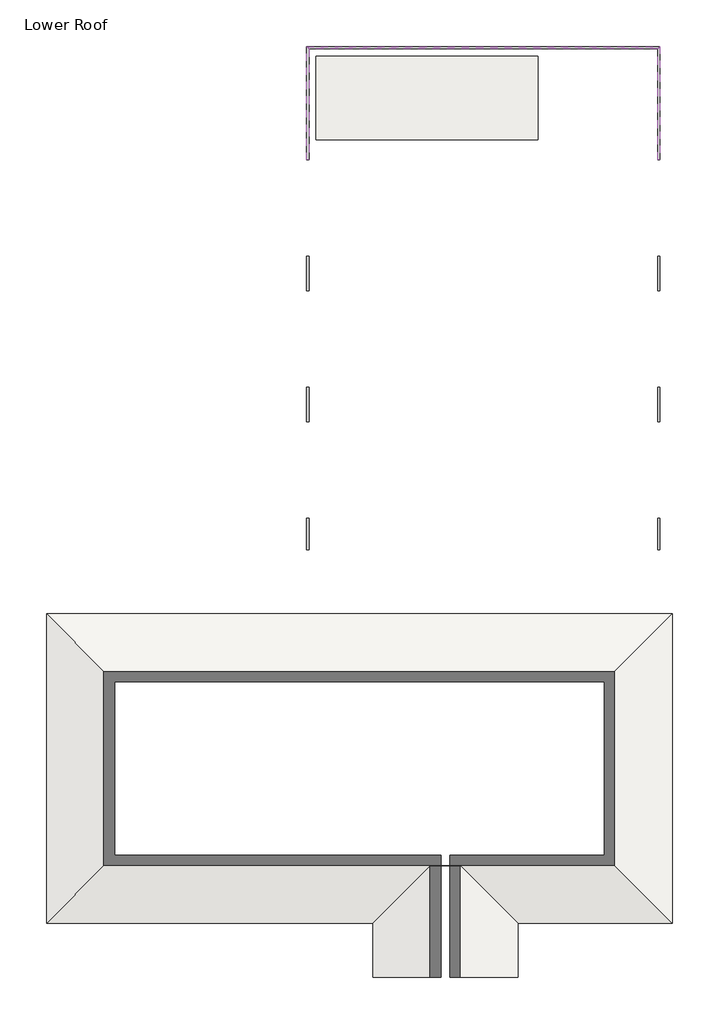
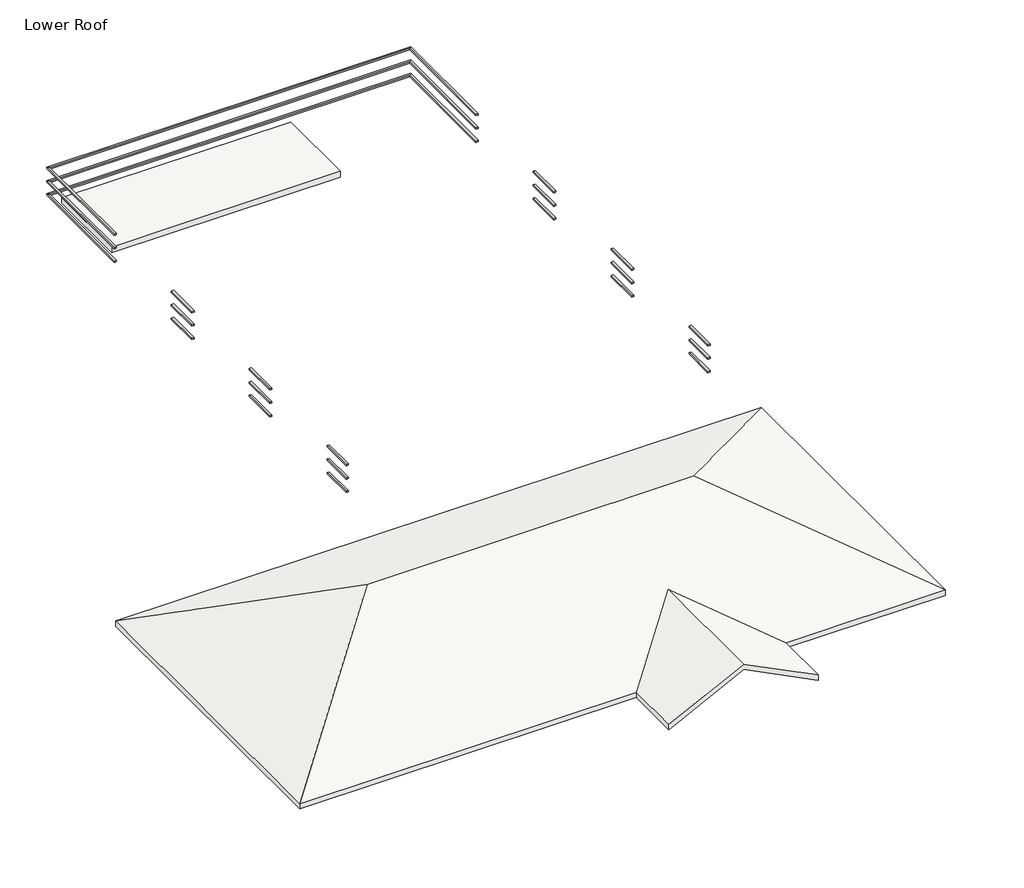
# One storey: 9 proxies, 1 roof, 1 slab.
"""IFC4 building model written with IfcOpenShell, lengths in millimetres."""

import ifcopenshell
import ifcopenshell.guid

model = None  # the IFC model being written
_history = None  # IfcOwnerHistory: only IFC2X3 demands one
_inside = {}  # id of a spatial element -> (the spatial element, [elements in it])
_under = {}  # id of a project, library or spatial element -> (it, [spatial elements below it])
_declared = {}  # id of a project -> (the project, [libraries it declares])
_typed = {}  # id of a type object -> (the type object, [elements of that type])
_made_of = {}  # id of a material, layer set ... -> (it, [elements and type objects made of it])


def new_model(schema):
    """Start an empty IFC model of exactly this schema.

    Asked for "IFC4X3", IfcOpenShell would pick the latest addendum, in which some entities
    have other attributes; the version numbers below select the first issue.
    IFC2X3 requires an IfcOwnerHistory on every rooted entity: one is made here for all.
    """
    global model, _history
    if schema == "IFC4X3":
        model = ifcopenshell.file(schema_version=(4, 3, 0, 0))
    else:
        model = ifcopenshell.file(schema=schema)
    _inside.clear()
    _under.clear()
    _declared.clear()
    _typed.clear()
    _made_of.clear()
    _history = None
    if model.schema == "IFC2X3":
        org = make("IfcOrganization", Name="unknown")
        user = make(
            "IfcPersonAndOrganization",
            ThePerson=make("IfcPerson", FamilyName="unknown"),
            TheOrganization=org,
        )
        app = make(
            "IfcApplication",
            ApplicationDeveloper=org,
            Version="unknown",
            ApplicationFullName="unknown",
            ApplicationIdentifier="unknown",
        )
        _history = make(
            "IfcOwnerHistory",
            OwningUser=user,
            OwningApplication=app,
            ChangeAction="ADDED",
            CreationDate=0,
        )
    return model


def make(cls, **values):
    """One entity of the class cls with the attributes given. An attribute that is None is left unset."""
    return model.create_entity(
        cls, **{name: value for name, value in values.items() if value is not None}
    )


def rooted(cls, **values):
    """An entity with a GlobalId (a new one), such as an element, a storey or a relation."""
    return make(cls, GlobalId=ifcopenshell.guid.new(), OwnerHistory=_history, **values)


def si_unit(unit_type, name, prefix=None):
    """IfcSIUnit, for example si_unit("LENGTHUNIT", "METRE", prefix="MILLI")."""
    return make("IfcSIUnit", UnitType=unit_type, Prefix=prefix, Name=name)


def assignment(units):
    """IfcUnitAssignment: the units of a project."""
    return None if units is None else make("IfcUnitAssignment", Units=units)


def point(xyz):
    """IfcCartesianPoint."""
    return None if xyz is None else make("IfcCartesianPoint", Coordinates=xyz)


def direction(xyz):
    """IfcDirection."""
    return None if xyz is None else make("IfcDirection", DirectionRatios=xyz)


def frame(location, z_axis=None, x_axis=None):
    """IfcAxis2Placement3D, a coordinate frame: its origin and axes. An axis left out is left unset."""
    return make(
        "IfcAxis2Placement3D",
        Location=point(location),
        Axis=direction(z_axis),
        RefDirection=direction(x_axis),
    )


def origin():
    """The frame at (0, 0, 0) with its axes left unset."""
    return frame((0.0, 0.0, 0.0))


def place(relative_to, where):
    """IfcLocalPlacement: puts the frame where relative to a parent placement (None: the world)."""
    return make(
        "IfcLocalPlacement", PlacementRelTo=relative_to, RelativePlacement=where
    )


def context(
    kind, dimensions, precision=None, world=None, true_north=None, identifier=None
):
    """IfcGeometricRepresentationContext, for example the 3D "Model" context."""
    return make(
        "IfcGeometricRepresentationContext",
        ContextIdentifier=identifier,
        ContextType=kind,
        CoordinateSpaceDimension=dimensions,
        Precision=precision,
        WorldCoordinateSystem=world,
        TrueNorth=true_north,
    )


def project(units=None, contexts=None):
    """IfcProject with its units and contexts."""
    return rooted(
        "IfcProject",
        Name="project",
        RepresentationContexts=contexts,
        UnitsInContext=assignment(units),
    )


def spatial(cls, under=None, at=None, **own):
    """A site, building, storey or space (cls), placed at a placement, below another one or the project."""
    s = rooted(cls, ObjectPlacement=at, **own)
    if under is not None:
        _under.setdefault(under.id(), (under, []))[1].append(s)
    return s


def polyline(points):
    """IfcPolyline through the points."""
    return make("IfcPolyline", Points=[point(p) for p in points])


def outline(outer, holes=None, kind="AREA"):
    """IfcArbitraryClosedProfileDef: a profile drawn as a closed curve; with holes, ...WithVoids."""
    if holes is None:
        return make("IfcArbitraryClosedProfileDef", ProfileType=kind, OuterCurve=outer)
    return make(
        "IfcArbitraryProfileDefWithVoids",
        ProfileType=kind,
        OuterCurve=outer,
        InnerCurves=holes,
    )


def extrude(swept, where, along, depth):
    """IfcExtrudedAreaSolid: the profile swept, set in the frame where, extruded along a direction by depth."""
    return make(
        "IfcExtrudedAreaSolid",
        SweptArea=swept,
        Position=where,
        ExtrudedDirection=direction(along),
        Depth=depth,
    )


def faces_of(points, faces, orient=None, outer=None):
    """IfcFace entities. A face is a list of loops; a loop is a list of indices into points, from 0.

    orient and outer hold one flag for each loop. By default every Orientation is true, the
    first loop of a face is its IfcFaceOuterBound and the others are IfcFaceBound.
    """
    made = []
    for i, loops in enumerate(faces):
        bounds = []
        for j, loop in enumerate(loops):
            is_outer = j == 0 if outer is None else outer[i][j]
            bounds.append(
                make(
                    "IfcFaceOuterBound" if is_outer else "IfcFaceBound",
                    Bound=make("IfcPolyLoop", Polygon=[points[k] for k in loop]),
                    Orientation=True if orient is None else orient[i][j],
                )
            )
        made.append(make("IfcFace", Bounds=bounds))
    return made


def faceted_brep(points, faces, orient=None, outer=None, voids=None):
    """IfcFacetedBrep: a solid bounded by flat faces; with voids (closed shells), ...WithVoids."""
    shared = [point(p) for p in points]
    hull = make("IfcClosedShell", CfsFaces=faces_of(shared, faces, orient, outer))
    if voids is None:
        return make("IfcFacetedBrep", Outer=hull)
    return make(
        "IfcFacetedBrepWithVoids",
        Outer=hull,
        Voids=[
            make(cls, CfsFaces=faces_of(shared, fs, o, b)) for cls, fs, o, b in voids
        ],
    )


def shape(context_of_items, identifier, shape_type, items):
    """IfcShapeRepresentation: the items that make up one representation, for example the "Body"."""
    return make(
        "IfcShapeRepresentation",
        ContextOfItems=context_of_items,
        RepresentationIdentifier=identifier,
        RepresentationType=shape_type,
        Items=items,
    )


def made_of(thing, what):
    """Note that an element or type object is made of a material, layer set ...; save() writes the relation."""
    if what is not None:
        _made_of.setdefault(what.id(), (what, []))[1].append(thing)
    return thing


def element(
    cls,
    number,
    at=None,
    inside=None,
    cuts=None,
    type_object=None,
    material=None,
    context=None,
    identifier="Body",
    shape_type=None,
    held_by="IfcProductDefinitionShape",
    body=None,
    shapes=None,
    **own,
):
    """One element of the class cls, such as IfcWall. Its Tag is "e" and its number.

    at: its placement. inside: the storey or other place that contains it. cuts: it is an
    opening in that element (IfcRelVoidsElement). A single representation is given by context,
    identifier, shape_type and body (its items); several are given by shapes. held_by: the class
    of the entity that holds the representations. save() writes the other relations.
    """
    e = rooted(cls, Tag="e%d" % number, ObjectPlacement=at, **own)
    if body is not None:
        shapes = [shape(context, identifier, shape_type, body)]
    if shapes is not None:
        e.Representation = make(held_by, Representations=shapes)
    if inside is not None:
        _inside.setdefault(inside.id(), (inside, []))[1].append(e)
    if cuts is not None:
        rooted(
            "IfcRelVoidsElement", RelatingBuildingElement=cuts, RelatedOpeningElement=e
        )
    if type_object is not None:
        _typed.setdefault(type_object.id(), (type_object, []))[1].append(e)
    return made_of(e, material)


def aggregate(whole, parts):
    """IfcRelAggregates: a whole, such as a stair, and the parts it consists of."""
    return rooted("IfcRelAggregates", RelatingObject=whole, RelatedObjects=parts)


def save(model, path):
    """Write the relations noted so far, then the file.

    IfcRelAggregates (storeys below a building ...), IfcRelContainedInSpatialStructure (elements
    in a storey), IfcRelDefinesByType, IfcRelAssociatesMaterial and IfcRelDeclares: one each for
    every whole, place, type object, material and project.
    """
    for whole, parts in _under.values():
        aggregate(whole, parts)
    for where, things in _inside.values():
        rooted(
            "IfcRelContainedInSpatialStructure",
            RelatedElements=things,
            RelatingStructure=where,
        )
    for kind, things in _typed.values():
        rooted("IfcRelDefinesByType", RelatedObjects=things, RelatingType=kind)
    for what, things in _made_of.values():
        rooted("IfcRelAssociatesMaterial", RelatedObjects=things, RelatingMaterial=what)
    for by, libraries in _declared.values():
        rooted("IfcRelDeclares", RelatingContext=by, RelatedDefinitions=libraries)
    model.write(path)


model = new_model("IFC4")

# Units and contexts
model_context = context("Model", 3, world=origin())
ifc_project = project(units=[si_unit("LENGTHUNIT", "METRE", prefix="MILLI")], contexts=[model_context])

# Site, building, storey
site = spatial("IfcSite", under=ifc_project)
building = spatial("IfcBuilding", under=site)
storey = spatial("IfcBuildingStorey", under=building, Name="Lower Roof", Elevation=45720.0)

# Proxies
placement = place(None, origin())
element("IfcBuildingElementProxy", 1, Name="Reveals", at=placement, inside=storey, context=model_context, shape_type="SweptSolid", body=[
    extrude(outline(polyline([(-14824.1042336, 22029.6605156), (-14916.1792336, 22121.7355156), (707.9957664, 22121.7355156), (615.9207664, 22029.6605156), (-14824.1042336, 22029.6605156)])), frame((0.0, 0.0, 45720.0), z_axis=(0.0, 0.0, 1.0), x_axis=(1.0, 0.0, 0.0)), (0.0, 0.0, 1.0), 67.7333333),
])
element("IfcBuildingElementProxy", 2, Name="Reveals", at=placement, inside=storey, context=model_context, shape_type="SweptSolid", body=[
    extrude(outline(polyline([(-14824.1042336, 22029.6605156), (-14916.1792336, 22121.7355156), (707.9957664, 22121.7355156), (615.9207664, 22029.6605156), (-14824.1042336, 22029.6605156)])), frame((0.0, 0.0, 46329.6), z_axis=(0.0, 0.0, 1.0), x_axis=(1.0, 0.0, 0.0)), (0.0, 0.0, 1.0), 67.7333333),
])
element("IfcBuildingElementProxy", 3, Name="Reveals", at=placement, inside=storey, context=model_context, shape_type="SweptSolid", body=[
    extrude(outline(polyline([(-14824.1042336, 22029.6605156), (-14916.1792336, 22121.7355156), (707.9957664, 22121.7355156), (615.9207664, 22029.6605156), (-14824.1042336, 22029.6605156)])), frame((0.0, 0.0, 46939.2), z_axis=(0.0, 0.0, 1.0), x_axis=(1.0, 0.0, 0.0)), (0.0, 0.0, 1.0), 67.7333333),
])
element("IfcBuildingElementProxy", 4, Name="Reveals", at=placement, inside=storey, context=model_context, shape_type="SweptSolid", body=[
    extrude(outline(polyline([(-14824.1042336, -141.3644844), (-14916.1792336, -141.3644844), (-14916.1792336, 1254.0480156), (-14824.1042336, 1254.0480156), (-14824.1042336, -141.3644844)])), frame((0.0, 0.0, 45720.0), z_axis=(0.0, 0.0, 1.0), x_axis=(1.0, 0.0, 0.0)), (0.0, 0.0, 1.0), 67.7333333),
    extrude(outline(polyline([(-14824.1042336, 5521.2480156), (-14916.1792336, 5521.2480156), (-14916.1792336, 7045.2480156), (-14824.1042336, 7045.2480156), (-14824.1042336, 5521.2480156)])), frame((0.0, 0.0, 45720.0), z_axis=(0.0, 0.0, 1.0), x_axis=(1.0, 0.0, 0.0)), (0.0, 0.0, 1.0), 67.7333333),
    extrude(outline(polyline([(-14824.1042336, 11312.4480156), (-14916.1792336, 11312.4480156), (-14916.1792336, 12836.4480156), (-14824.1042336, 12836.4480156), (-14824.1042336, 11312.4480156)])), frame((0.0, 0.0, 45720.0), z_axis=(0.0, 0.0, 1.0), x_axis=(1.0, 0.0, 0.0)), (0.0, 0.0, 1.0), 67.7333333),
    extrude(outline(polyline([(-14824.1042336, 17103.6480156), (-14916.1792336, 17103.6480156), (-14916.1792336, 22121.7355156), (-14824.1042336, 22029.6605156), (-14824.1042336, 17103.6480156)])), frame((0.0, 0.0, 45720.0), z_axis=(0.0, 0.0, 1.0), x_axis=(1.0, 0.0, 0.0)), (0.0, 0.0, 1.0), 67.7333333),
])
element("IfcBuildingElementProxy", 5, Name="Reveals", at=placement, inside=storey, context=model_context, shape_type="SweptSolid", body=[
    extrude(outline(polyline([(-14824.1042336, -141.3644844), (-14916.1792336, -141.3644844), (-14916.1792336, 1254.0480156), (-14824.1042336, 1254.0480156), (-14824.1042336, -141.3644844)])), frame((0.0, 0.0, 46329.6), z_axis=(0.0, 0.0, 1.0), x_axis=(1.0, 0.0, 0.0)), (0.0, 0.0, 1.0), 67.7333333),
    extrude(outline(polyline([(-14824.1042336, 5521.2480156), (-14916.1792336, 5521.2480156), (-14916.1792336, 7045.2480156), (-14824.1042336, 7045.2480156), (-14824.1042336, 5521.2480156)])), frame((0.0, 0.0, 46329.6), z_axis=(0.0, 0.0, 1.0), x_axis=(1.0, 0.0, 0.0)), (0.0, 0.0, 1.0), 67.7333333),
    extrude(outline(polyline([(-14824.1042336, 11312.4480156), (-14916.1792336, 11312.4480156), (-14916.1792336, 12836.4480156), (-14824.1042336, 12836.4480156), (-14824.1042336, 11312.4480156)])), frame((0.0, 0.0, 46329.6), z_axis=(0.0, 0.0, 1.0), x_axis=(1.0, 0.0, 0.0)), (0.0, 0.0, 1.0), 67.7333333),
    extrude(outline(polyline([(-14824.1042336, 17103.6480156), (-14916.1792336, 17103.6480156), (-14916.1792336, 22121.7355156), (-14824.1042336, 22029.6605156), (-14824.1042336, 17103.6480156)])), frame((0.0, 0.0, 46329.6), z_axis=(0.0, 0.0, 1.0), x_axis=(1.0, 0.0, 0.0)), (0.0, 0.0, 1.0), 67.7333333),
])
element("IfcBuildingElementProxy", 6, Name="Reveals", at=placement, inside=storey, context=model_context, shape_type="SweptSolid", body=[
    extrude(outline(polyline([(-14824.1042336, -141.3644844), (-14916.1792336, -141.3644844), (-14916.1792336, 1254.0480156), (-14824.1042336, 1254.0480156), (-14824.1042336, -141.3644844)])), frame((0.0, 0.0, 46939.2), z_axis=(0.0, 0.0, 1.0), x_axis=(1.0, 0.0, 0.0)), (0.0, 0.0, 1.0), 67.7333333),
    extrude(outline(polyline([(-14824.1042336, 5521.2480156), (-14916.1792336, 5521.2480156), (-14916.1792336, 7045.2480156), (-14824.1042336, 7045.2480156), (-14824.1042336, 5521.2480156)])), frame((0.0, 0.0, 46939.2), z_axis=(0.0, 0.0, 1.0), x_axis=(1.0, 0.0, 0.0)), (0.0, 0.0, 1.0), 67.7333333),
    extrude(outline(polyline([(-14824.1042336, 11312.4480156), (-14916.1792336, 11312.4480156), (-14916.1792336, 12836.4480156), (-14824.1042336, 12836.4480156), (-14824.1042336, 11312.4480156)])), frame((0.0, 0.0, 46939.2), z_axis=(0.0, 0.0, 1.0), x_axis=(1.0, 0.0, 0.0)), (0.0, 0.0, 1.0), 67.7333333),
    extrude(outline(polyline([(-14824.1042336, 17103.6480156), (-14916.1792336, 17103.6480156), (-14916.1792336, 22121.7355156), (-14824.1042336, 22029.6605156), (-14824.1042336, 17103.6480156)])), frame((0.0, 0.0, 46939.2), z_axis=(0.0, 0.0, 1.0), x_axis=(1.0, 0.0, 0.0)), (0.0, 0.0, 1.0), 67.7333333),
])
element("IfcBuildingElementProxy", 7, Name="Reveals", at=placement, inside=storey, context=model_context, shape_type="SweptSolid", body=[
    extrude(outline(polyline([(615.9207664, 22029.6605156), (707.9957664, 22121.7355156), (707.9957664, 17103.6480156), (615.9207664, 17103.6480156), (615.9207664, 22029.6605156)])), frame((0.0, 0.0, 45720.0), z_axis=(0.0, 0.0, 1.0), x_axis=(1.0, 0.0, 0.0)), (0.0, 0.0, 1.0), 67.7333333),
    extrude(outline(polyline([(615.9207664, 12836.4480156), (707.9957664, 12836.4480156), (707.9957664, 11312.4480156), (615.9207664, 11312.4480156), (615.9207664, 12836.4480156)])), frame((0.0, 0.0, 45720.0), z_axis=(0.0, 0.0, 1.0), x_axis=(1.0, 0.0, 0.0)), (0.0, 0.0, 1.0), 67.7333333),
    extrude(outline(polyline([(615.9207664, 7045.2480156), (707.9957664, 7045.2480156), (707.9957664, 5521.2480156), (615.9207664, 5521.2480156), (615.9207664, 7045.2480156)])), frame((0.0, 0.0, 45720.0), z_axis=(0.0, 0.0, 1.0), x_axis=(1.0, 0.0, 0.0)), (0.0, 0.0, 1.0), 67.7333333),
    extrude(outline(polyline([(615.9207664, 1254.0480156), (707.9957664, 1254.0480156), (707.9957664, -141.3644844), (615.9207664, -141.3644844), (615.9207664, 1254.0480156)])), frame((0.0, 0.0, 45720.0), z_axis=(0.0, 0.0, 1.0), x_axis=(1.0, 0.0, 0.0)), (0.0, 0.0, 1.0), 67.7333333),
])
element("IfcBuildingElementProxy", 8, Name="Reveals", at=placement, inside=storey, context=model_context, shape_type="SweptSolid", body=[
    extrude(outline(polyline([(615.9207664, 22029.6605156), (707.9957664, 22121.7355156), (707.9957664, 17103.6480156), (615.9207664, 17103.6480156), (615.9207664, 22029.6605156)])), frame((0.0, 0.0, 46329.6), z_axis=(0.0, 0.0, 1.0), x_axis=(1.0, 0.0, 0.0)), (0.0, 0.0, 1.0), 67.7333333),
    extrude(outline(polyline([(615.9207664, 12836.4480156), (707.9957664, 12836.4480156), (707.9957664, 11312.4480156), (615.9207664, 11312.4480156), (615.9207664, 12836.4480156)])), frame((0.0, 0.0, 46329.6), z_axis=(0.0, 0.0, 1.0), x_axis=(1.0, 0.0, 0.0)), (0.0, 0.0, 1.0), 67.7333333),
    extrude(outline(polyline([(615.9207664, 7045.2480156), (707.9957664, 7045.2480156), (707.9957664, 5521.2480156), (615.9207664, 5521.2480156), (615.9207664, 7045.2480156)])), frame((0.0, 0.0, 46329.6), z_axis=(0.0, 0.0, 1.0), x_axis=(1.0, 0.0, 0.0)), (0.0, 0.0, 1.0), 67.7333333),
    extrude(outline(polyline([(615.9207664, 1254.0480156), (707.9957664, 1254.0480156), (707.9957664, -141.3644844), (615.9207664, -141.3644844), (615.9207664, 1254.0480156)])), frame((0.0, 0.0, 46329.6), z_axis=(0.0, 0.0, 1.0), x_axis=(1.0, 0.0, 0.0)), (0.0, 0.0, 1.0), 67.7333333),
])
element("IfcBuildingElementProxy", 9, Name="Reveals", at=placement, inside=storey, context=model_context, shape_type="SweptSolid", body=[
    extrude(outline(polyline([(615.9207664, 22029.6605156), (707.9957664, 22121.7355156), (707.9957664, 17103.6480156), (615.9207664, 17103.6480156), (615.9207664, 22029.6605156)])), frame((0.0, 0.0, 46939.2), z_axis=(0.0, 0.0, 1.0), x_axis=(1.0, 0.0, 0.0)), (0.0, 0.0, 1.0), 67.7333333),
    extrude(outline(polyline([(615.9207664, 12836.4480156), (707.9957664, 12836.4480156), (707.9957664, 11312.4480156), (615.9207664, 11312.4480156), (615.9207664, 12836.4480156)])), frame((0.0, 0.0, 46939.2), z_axis=(0.0, 0.0, 1.0), x_axis=(1.0, 0.0, 0.0)), (0.0, 0.0, 1.0), 67.7333333),
    extrude(outline(polyline([(615.9207664, 7045.2480156), (707.9957664, 7045.2480156), (707.9957664, 5521.2480156), (615.9207664, 5521.2480156), (615.9207664, 7045.2480156)])), frame((0.0, 0.0, 46939.2), z_axis=(0.0, 0.0, 1.0), x_axis=(1.0, 0.0, 0.0)), (0.0, 0.0, 1.0), 67.7333333),
    extrude(outline(polyline([(615.9207664, 1254.0480156), (707.9957664, 1254.0480156), (707.9957664, -141.3644844), (615.9207664, -141.3644844), (615.9207664, 1254.0480156)])), frame((0.0, 0.0, 46939.2), z_axis=(0.0, 0.0, 1.0), x_axis=(1.0, 0.0, 0.0)), (0.0, 0.0, 1.0), 67.7333333),
])

# Roof
element("IfcRoof", 10, ObjectType="Wood Rafter 8\" - Asphalt Shingle - Insulated", at=placement, inside=storey, context=model_context, shape_type="Brep", body=[
    faceted_brep([(-8780.4917336, -13450.9644844, 47019.36875), (-5572.1542336, -16659.3019844, 45415.2), (-5572.1542336, -19065.9519844, 45415.2), (-8780.4917336, -19065.9519844, 47019.36875), (-5580.0917336, -9820.3519844, 48834.675), (1258.8582664, -2981.4019844, 45415.2), (1258.8582664, -16659.3019844, 45415.2), (-19600.8917336, -9820.3519844, 48834.675), (-26439.8417336, -2981.4019844, 45415.2), (-26439.8417336, -16659.3019844, 45415.2), (-11988.8292336, -16659.3019844, 45415.2), (-11988.8292336, -19065.9519844, 45415.2), (-8780.4917336, -13450.9644844, 47257.2025303), (-8780.4917336, -19065.9519844, 47257.2025303), (-5572.1542336, -19065.9519844, 45653.0337803), (-5572.1542336, -16659.3019844, 45653.0337803), (-5580.0917336, -9820.3519844, 49072.5087803), (1258.8582664, -16659.3019844, 45653.0337803), (1258.8582664, -2981.4019844, 45653.0337803), (-19600.8917336, -9820.3519844, 49072.5087803), (-26439.8417336, -2981.4019844, 45653.0337803), (-26439.8417336, -16659.3019844, 45653.0337803), (-11988.8292336, -16659.3019844, 45653.0337803), (-11988.8292336, -19065.9519844, 45653.0337803)], [[[0, 1, 2, 3]], [[4, 5, 6]], [[7, 8, 5, 4]], [[7, 9, 8]], [[7, 4, 6, 1, 0, 10, 9]], [[0, 3, 11, 10]], [[12, 13, 14, 15]], [[16, 17, 18]], [[19, 16, 18, 20]], [[19, 20, 21]], [[19, 21, 22, 12, 15, 17, 16]], [[12, 22, 23, 13]], [[1, 15, 14, 2]], [[6, 17, 15, 1]], [[5, 18, 17, 6]], [[8, 20, 18, 5]], [[9, 21, 20, 8]], [[10, 22, 21, 9]], [[11, 23, 22, 10]], [[14, 13, 23, 11, 3, 2]]]),
])

# Slab
element("IfcSlab", 11, ObjectType="Wood Joist 10\" - Plywood Deck", at=placement, inside=storey, context=model_context, shape_type="SweptSolid", body=[
    extrude(outline(polyline([(-4679.9792336, 21702.6355156), (-4679.9792336, 18006.9355156), (-14497.0792336, 18006.9355156), (-14497.0792336, 21702.6355156), (-4679.9792336, 21702.6355156)])), frame((0.0, 0.0, 45462.825), z_axis=(0.0, 0.0, 1.0), x_axis=(1.0, 0.0, 0.0)), (0.0, 0.0, 1.0), 257.175),
])

save(model, "model.ifc")
